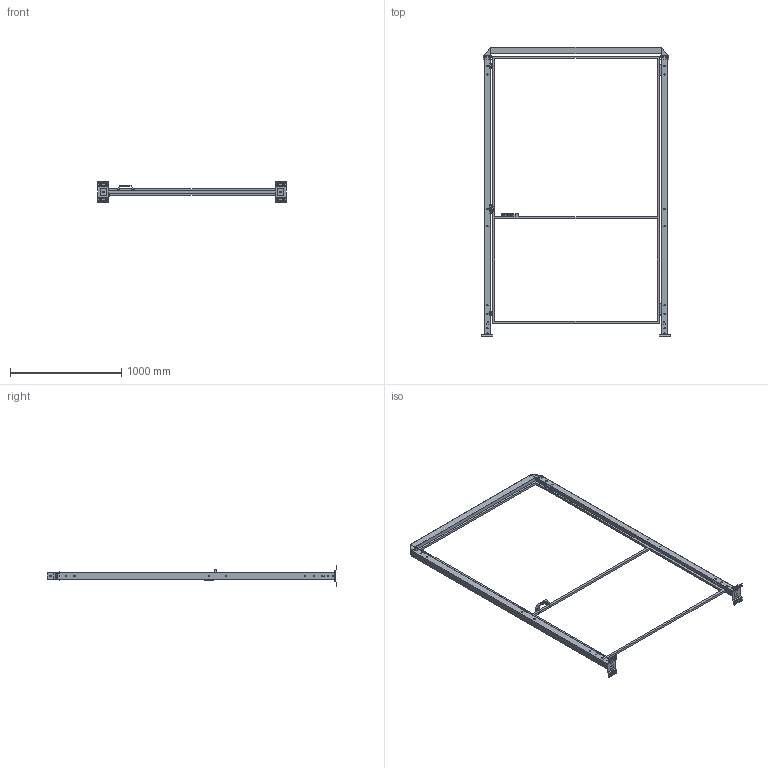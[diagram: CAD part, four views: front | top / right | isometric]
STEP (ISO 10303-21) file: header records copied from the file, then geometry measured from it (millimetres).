
FILE_DESCRIPTION(('STEP AP242'),'1');
FILE_NAME('vfda_bscndr2_15002520.stp','2025-01-23T13:52:08',('TraceParts'),('TraceParts S.A.'),'Spatial InterOp 3D',' ',' ');
FILE_SCHEMA(('AP242_MANAGED_MODEL_BASED_3D_ENGINEERING_MIM_LF {1 0 10303 442 1 1 4}'));
Length unit declared in the file: millimetre
Products named in the file (1): vfda_bscndr2_15002520_1
Bounding box: 1690 x 2601 x 192 mm (x, y, z)
Volume: 6405432.7 mm3; surface area: 4042436.2 mm2
Topology: 12 solids, 12 shells, 1874 faces, 5016 edges, 3212 vertices
Faces by surface type: plane 906, cylinder 628, bspline 236, cone 60, torus 40, sphere 4
Entity records: 75648 total; most frequent: CARTESIAN_POINT 13827, ORIENTED_EDGE 10024, DIRECTION 9202, EDGE_CURVE 5012, VERTEX_POINT 3212, LINE 3072, VECTOR 3072, AXIS2_PLACEMENT_3D 3065
